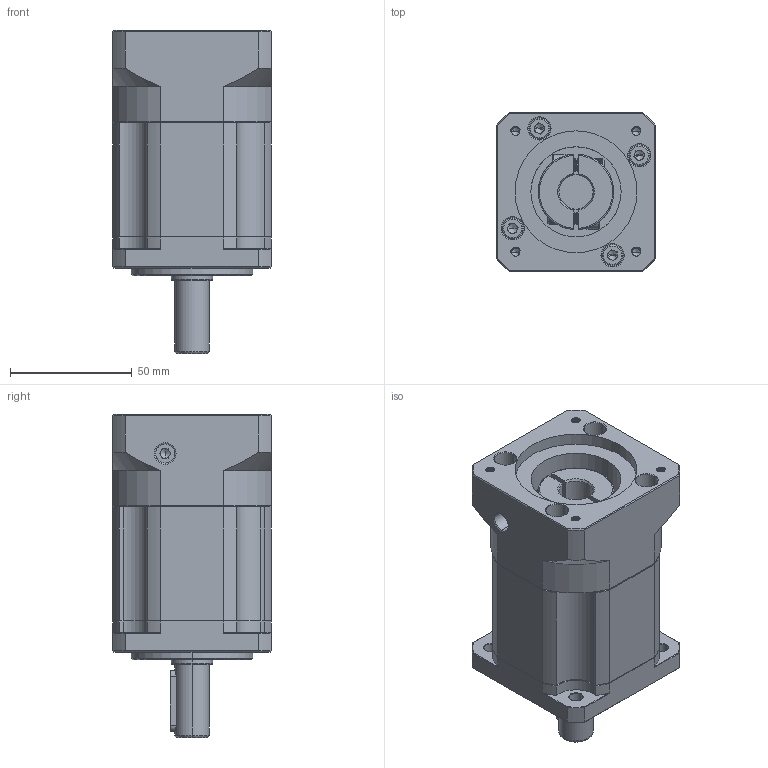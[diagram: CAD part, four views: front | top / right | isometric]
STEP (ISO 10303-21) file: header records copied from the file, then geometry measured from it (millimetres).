
FILE_DESCRIPTION (( 'STEP AP214' ), '1' );
FILE_NAME ('ZB60-D14-L2-14-50-70-M4.STEP', '2022-04-17T06:33:56', ( '' ), ( 'Microsoft' ), 'SwSTEP 2.0', 'SolidWorks 2016', '' );
FILE_SCHEMA (( 'AUTOMOTIVE_DESIGN' ));
Length unit declared in the file: millimetre
Products named in the file (1): ZB60-D14-L2-14-50-70-M4
Bounding box: 65 x 65 x 132.5 mm (x, y, z)
Volume: 329240.5 mm3; surface area: 58438.4 mm2
Topology: 6 solids, 6 shells, 1874 faces, 4977 edges, 3186 vertices
Faces by surface type: plane 879, cylinder 381, bspline 299, cone 279, torus 36
Entity records: 98781 total; most frequent: CARTESIAN_POINT 34016, ORIENTED_EDGE 9894, DIRECTION 8099, EDGE_CURVE 4947, VERTEX_POINT 3186, VECTOR 3009, LINE 3009, AXIS2_PLACEMENT_3D 2545
